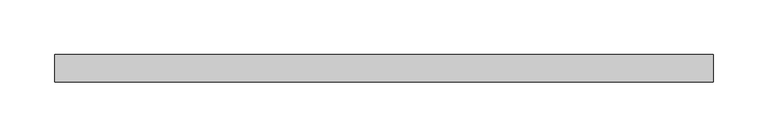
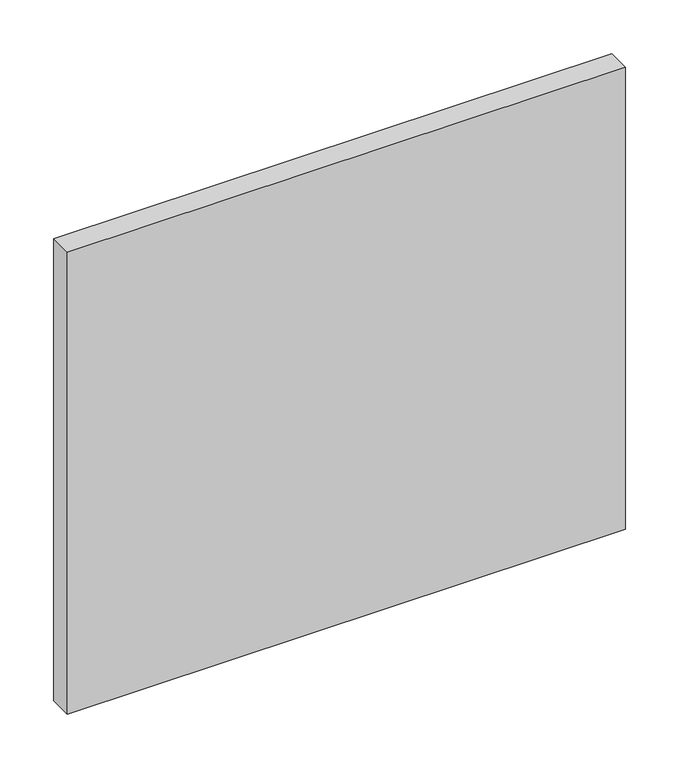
"""IFC4 building model written with IfcOpenShell, lengths in millimetres: plate geometry, 系统嵌板 : 玻璃."""

import ifcopenshell
import ifcopenshell.guid

model = None  # the IFC model being written
_history = None  # IfcOwnerHistory: only IFC2X3 demands one
_inside = {}  # id of a spatial element -> (the spatial element, [elements in it])
_under = {}  # id of a project, library or spatial element -> (it, [spatial elements below it])
_declared = {}  # id of a project -> (the project, [libraries it declares])
_typed = {}  # id of a type object -> (the type object, [elements of that type])
_made_of = {}  # id of a material, layer set ... -> (it, [elements and type objects made of it])


def new_model(schema):
    """Start an empty IFC model of exactly this schema.

    Asked for "IFC4X3", IfcOpenShell would pick the latest addendum, in which some entities
    have other attributes; the version numbers below select the first issue.
    IFC2X3 requires an IfcOwnerHistory on every rooted entity: one is made here for all.
    """
    global model, _history
    if schema == "IFC4X3":
        model = ifcopenshell.file(schema_version=(4, 3, 0, 0))
    else:
        model = ifcopenshell.file(schema=schema)
    _inside.clear()
    _under.clear()
    _declared.clear()
    _typed.clear()
    _made_of.clear()
    _history = None
    if model.schema == "IFC2X3":
        org = make("IfcOrganization", Name="unknown")
        user = make(
            "IfcPersonAndOrganization",
            ThePerson=make("IfcPerson", FamilyName="unknown"),
            TheOrganization=org,
        )
        app = make(
            "IfcApplication",
            ApplicationDeveloper=org,
            Version="unknown",
            ApplicationFullName="unknown",
            ApplicationIdentifier="unknown",
        )
        _history = make(
            "IfcOwnerHistory",
            OwningUser=user,
            OwningApplication=app,
            ChangeAction="ADDED",
            CreationDate=0,
        )
    return model


def make(cls, **values):
    """One entity of the class cls with the attributes given. An attribute that is None is left unset."""
    return model.create_entity(
        cls, **{name: value for name, value in values.items() if value is not None}
    )


def rooted(cls, **values):
    """An entity with a GlobalId (a new one), such as an element, a storey or a relation."""
    return make(cls, GlobalId=ifcopenshell.guid.new(), OwnerHistory=_history, **values)


def si_unit(unit_type, name, prefix=None):
    """IfcSIUnit, for example si_unit("LENGTHUNIT", "METRE", prefix="MILLI")."""
    return make("IfcSIUnit", UnitType=unit_type, Prefix=prefix, Name=name)


def assignment(units):
    """IfcUnitAssignment: the units of a project."""
    return None if units is None else make("IfcUnitAssignment", Units=units)


def point(xyz):
    """IfcCartesianPoint."""
    return None if xyz is None else make("IfcCartesianPoint", Coordinates=xyz)


def direction(xyz):
    """IfcDirection."""
    return None if xyz is None else make("IfcDirection", DirectionRatios=xyz)


def frame(location, z_axis=None, x_axis=None):
    """IfcAxis2Placement3D, a coordinate frame: its origin and axes. An axis left out is left unset."""
    return make(
        "IfcAxis2Placement3D",
        Location=point(location),
        Axis=direction(z_axis),
        RefDirection=direction(x_axis),
    )


def origin():
    """The frame at (0, 0, 0) with its axes left unset."""
    return frame((0.0, 0.0, 0.0))


def origin_with_axes():
    """The frame at (0, 0, 0) with the z axis (0, 0, 1) and the x axis (1, 0, 0) written out."""
    return frame((0.0, 0.0, 0.0), z_axis=(0.0, 0.0, 1.0), x_axis=(1.0, 0.0, 0.0))


def place(relative_to, where):
    """IfcLocalPlacement: puts the frame where relative to a parent placement (None: the world)."""
    return make(
        "IfcLocalPlacement", PlacementRelTo=relative_to, RelativePlacement=where
    )


def context(
    kind, dimensions, precision=None, world=None, true_north=None, identifier=None
):
    """IfcGeometricRepresentationContext, for example the 3D "Model" context."""
    return make(
        "IfcGeometricRepresentationContext",
        ContextIdentifier=identifier,
        ContextType=kind,
        CoordinateSpaceDimension=dimensions,
        Precision=precision,
        WorldCoordinateSystem=world,
        TrueNorth=true_north,
    )


def project(units=None, contexts=None):
    """IfcProject with its units and contexts."""
    return rooted(
        "IfcProject",
        Name="project",
        RepresentationContexts=contexts,
        UnitsInContext=assignment(units),
    )


def spatial(cls, under=None, at=None, **own):
    """A site, building, storey or space (cls), placed at a placement, below another one or the project."""
    s = rooted(cls, ObjectPlacement=at, **own)
    if under is not None:
        _under.setdefault(under.id(), (under, []))[1].append(s)
    return s


def polyline(points):
    """IfcPolyline through the points."""
    return make("IfcPolyline", Points=[point(p) for p in points])


def outline(outer, holes=None, kind="AREA"):
    """IfcArbitraryClosedProfileDef: a profile drawn as a closed curve; with holes, ...WithVoids."""
    if holes is None:
        return make("IfcArbitraryClosedProfileDef", ProfileType=kind, OuterCurve=outer)
    return make(
        "IfcArbitraryProfileDefWithVoids",
        ProfileType=kind,
        OuterCurve=outer,
        InnerCurves=holes,
    )


def extrude(swept, where, along, depth):
    """IfcExtrudedAreaSolid: the profile swept, set in the frame where, extruded along a direction by depth."""
    return make(
        "IfcExtrudedAreaSolid",
        SweptArea=swept,
        Position=where,
        ExtrudedDirection=direction(along),
        Depth=depth,
    )


def shape(context_of_items, identifier, shape_type, items):
    """IfcShapeRepresentation: the items that make up one representation, for example the "Body"."""
    return make(
        "IfcShapeRepresentation",
        ContextOfItems=context_of_items,
        RepresentationIdentifier=identifier,
        RepresentationType=shape_type,
        Items=items,
    )


def source(mapping_origin, context_of_items, identifier, shape_type, items):
    """IfcRepresentationMap: a shape defined once, which mapped items show again and again."""
    return make(
        "IfcRepresentationMap",
        MappingOrigin=mapping_origin,
        MappedRepresentation=shape(context_of_items, identifier, shape_type, items),
    )


def transform(
    local_origin,
    x_axis=None,
    y_axis=None,
    z_axis=None,
    scale=None,
    scale2=None,
    scale3=None,
    uniform=True,
):
    """IfcCartesianTransformationOperator3D, or its non-uniform kind. x_axis, y_axis, z_axis: its Axis1, 2, 3."""
    if uniform:
        return make(
            "IfcCartesianTransformationOperator3D",
            Axis1=direction(x_axis),
            Axis2=direction(y_axis),
            LocalOrigin=point(local_origin),
            Scale=scale,
            Axis3=direction(z_axis),
        )
    return make(
        "IfcCartesianTransformationOperator3DnonUniform",
        Axis1=direction(x_axis),
        Axis2=direction(y_axis),
        LocalOrigin=point(local_origin),
        Scale=scale,
        Axis3=direction(z_axis),
        Scale2=scale2,
        Scale3=scale3,
    )


def mapped(mapping_source, mapping_target):
    """IfcMappedItem: shows the shape of a source again, moved by a transform."""
    return make(
        "IfcMappedItem", MappingSource=mapping_source, MappingTarget=mapping_target
    )


def made_of(thing, what):
    """Note that an element or type object is made of a material, layer set ...; save() writes the relation."""
    if what is not None:
        _made_of.setdefault(what.id(), (what, []))[1].append(thing)
    return thing


def element(
    cls,
    number,
    at=None,
    inside=None,
    cuts=None,
    type_object=None,
    material=None,
    context=None,
    identifier="Body",
    shape_type=None,
    held_by="IfcProductDefinitionShape",
    body=None,
    shapes=None,
    **own,
):
    """One element of the class cls, such as IfcWall. Its Tag is "e" and its number.

    at: its placement. inside: the storey or other place that contains it. cuts: it is an
    opening in that element (IfcRelVoidsElement). A single representation is given by context,
    identifier, shape_type and body (its items); several are given by shapes. held_by: the class
    of the entity that holds the representations. save() writes the other relations.
    """
    e = rooted(cls, Tag="e%d" % number, ObjectPlacement=at, **own)
    if body is not None:
        shapes = [shape(context, identifier, shape_type, body)]
    if shapes is not None:
        e.Representation = make(held_by, Representations=shapes)
    if inside is not None:
        _inside.setdefault(inside.id(), (inside, []))[1].append(e)
    if cuts is not None:
        rooted(
            "IfcRelVoidsElement", RelatingBuildingElement=cuts, RelatedOpeningElement=e
        )
    if type_object is not None:
        _typed.setdefault(type_object.id(), (type_object, []))[1].append(e)
    return made_of(e, material)


def aggregate(whole, parts):
    """IfcRelAggregates: a whole, such as a stair, and the parts it consists of."""
    return rooted("IfcRelAggregates", RelatingObject=whole, RelatedObjects=parts)


def save(model, path):
    """Write the relations noted so far, then the file.

    IfcRelAggregates (storeys below a building ...), IfcRelContainedInSpatialStructure (elements
    in a storey), IfcRelDefinesByType, IfcRelAssociatesMaterial and IfcRelDeclares: one each for
    every whole, place, type object, material and project.
    """
    for whole, parts in _under.values():
        aggregate(whole, parts)
    for where, things in _inside.values():
        rooted(
            "IfcRelContainedInSpatialStructure",
            RelatedElements=things,
            RelatingStructure=where,
        )
    for kind, things in _typed.values():
        rooted("IfcRelDefinesByType", RelatedObjects=things, RelatingType=kind)
    for what, things in _made_of.values():
        rooted("IfcRelAssociatesMaterial", RelatedObjects=things, RelatingMaterial=what)
    for by, libraries in _declared.values():
        rooted("IfcRelDeclares", RelatingContext=by, RelatedDefinitions=libraries)
    model.write(path)


def plate_0b4a2fd4(model_context):
    return source(origin(), model_context, "Body", "SweptSolid", [
        extrude(outline(polyline([(300.0, -12.5), (-300.0, -12.5), (-300.0, 12.5), (300.0, 12.5), (300.0, -12.5)])), origin_with_axes(), (0.0, 0.0, 1.0), 525.0),
    ])


if __name__ == "__main__":
    model = new_model("IFC4")
    model_context = context("Model", 3, world=origin())
    ifc_project = project(units=[si_unit("LENGTHUNIT", "METRE", prefix="MILLI")], contexts=[model_context])
    site = spatial("IfcSite", under=ifc_project)
    building = spatial("IfcBuilding", under=site)
    placement = place(None, origin())
    plate_shape = plate_0b4a2fd4(model_context)
    element("IfcPlate", 1, ObjectType="系统嵌板 : 玻璃", at=placement, inside=building, context=model_context, shape_type="MappedRepresentation", body=[
        mapped(plate_shape, transform((0.0, 0.0, 0.0), x_axis=(1.0, 0.0, 0.0), y_axis=(0.0, 1.0, 0.0), z_axis=(0.0, 0.0, 1.0))),
    ])
    save(model, "model.ifc")
